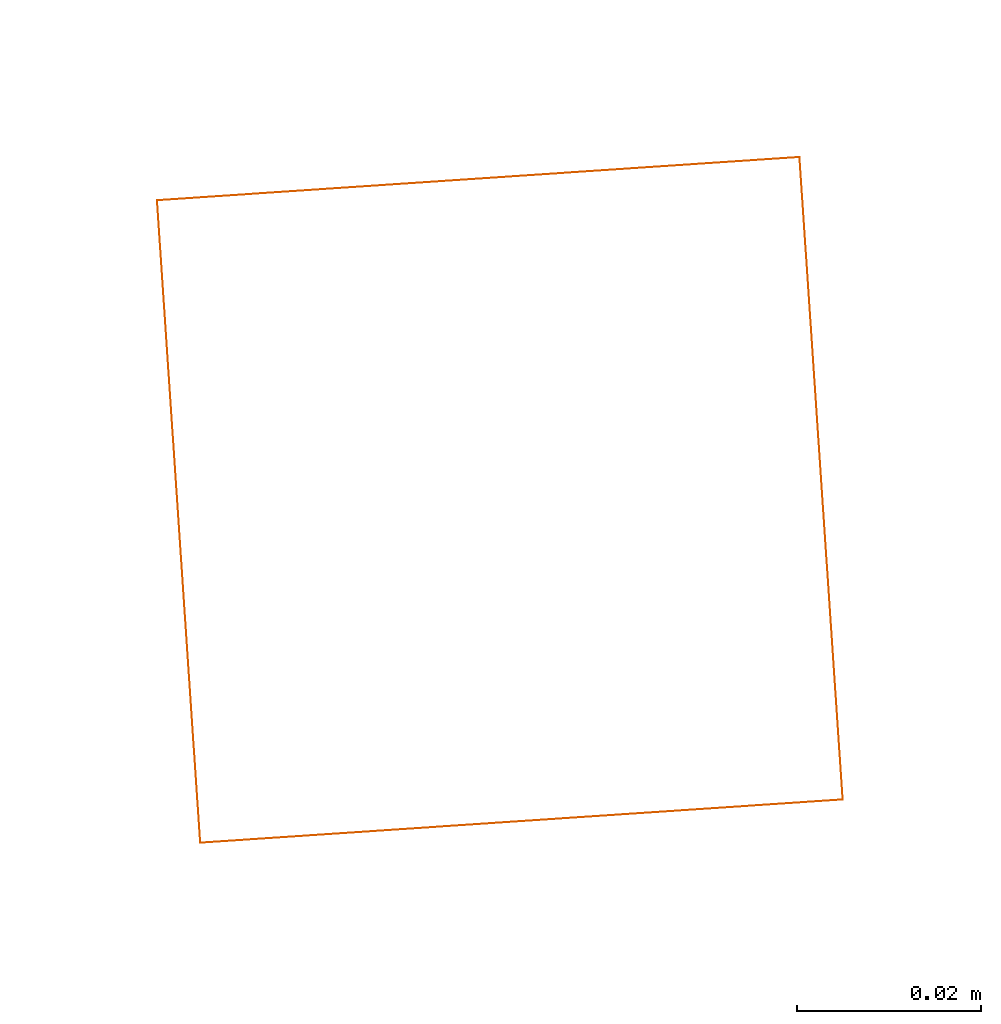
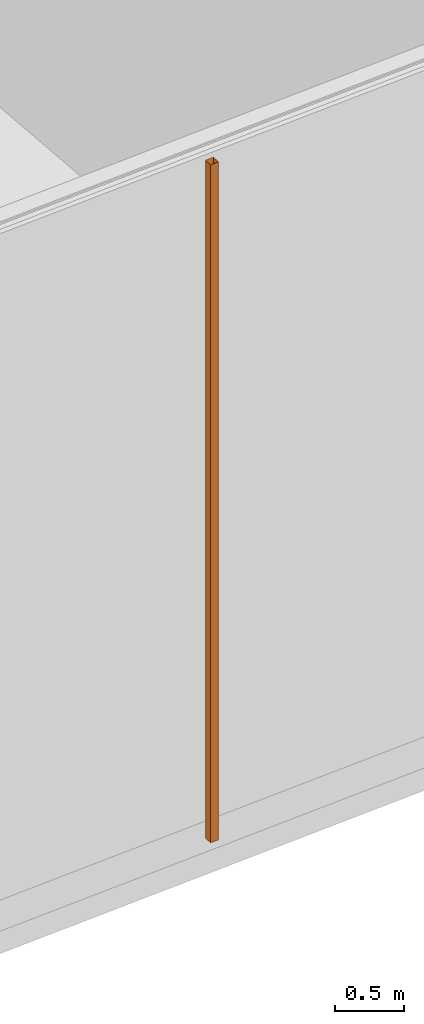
# One storey, part 59 of 112: 1 proxy.
"""IFC2X3 building model written with IfcOpenShell, lengths in millimetres."""

import ifcopenshell
import ifcopenshell.guid

model = None  # the IFC model being written
_history = None  # IfcOwnerHistory: only IFC2X3 demands one
_inside = {}  # id of a spatial element -> (the spatial element, [elements in it])
_under = {}  # id of a project, library or spatial element -> (it, [spatial elements below it])
_declared = {}  # id of a project -> (the project, [libraries it declares])
_typed = {}  # id of a type object -> (the type object, [elements of that type])
_made_of = {}  # id of a material, layer set ... -> (it, [elements and type objects made of it])


def new_model(schema):
    """Start an empty IFC model of exactly this schema.

    Asked for "IFC4X3", IfcOpenShell would pick the latest addendum, in which some entities
    have other attributes; the version numbers below select the first issue.
    IFC2X3 requires an IfcOwnerHistory on every rooted entity: one is made here for all.
    """
    global model, _history
    if schema == "IFC4X3":
        model = ifcopenshell.file(schema_version=(4, 3, 0, 0))
    else:
        model = ifcopenshell.file(schema=schema)
    _inside.clear()
    _under.clear()
    _declared.clear()
    _typed.clear()
    _made_of.clear()
    _history = None
    if model.schema == "IFC2X3":
        org = make("IfcOrganization", Name="unknown")
        user = make(
            "IfcPersonAndOrganization",
            ThePerson=make("IfcPerson", FamilyName="unknown"),
            TheOrganization=org,
        )
        app = make(
            "IfcApplication",
            ApplicationDeveloper=org,
            Version="unknown",
            ApplicationFullName="unknown",
            ApplicationIdentifier="unknown",
        )
        _history = make(
            "IfcOwnerHistory",
            OwningUser=user,
            OwningApplication=app,
            ChangeAction="ADDED",
            CreationDate=0,
        )
    return model


def make(cls, **values):
    """One entity of the class cls with the attributes given. An attribute that is None is left unset."""
    return model.create_entity(
        cls, **{name: value for name, value in values.items() if value is not None}
    )


def entity(cls, *values):
    """Any entity or typed value of the class cls, its attributes in the order of the schema. None: left unset."""
    e = model.create_entity(cls)
    for i, value in enumerate(values):
        if value is not None:
            e[i] = value
    return e


def rooted(cls, **values):
    """An entity with a GlobalId (a new one), such as an element, a storey or a relation."""
    return make(cls, GlobalId=ifcopenshell.guid.new(), OwnerHistory=_history, **values)


def si_unit(unit_type, name, prefix=None):
    """IfcSIUnit, for example si_unit("LENGTHUNIT", "METRE", prefix="MILLI")."""
    return make("IfcSIUnit", UnitType=unit_type, Prefix=prefix, Name=name)


def converted_unit(unit_type, name, factor, base, dimensions=None, offset=None):
    """IfcConversionBasedUnit, such as the inch: factor (a typed value) times the base unit."""
    return make(
        "IfcConversionBasedUnit"
        if offset is None
        else "IfcConversionBasedUnitWithOffset",
        ConversionOffset=offset,
        Dimensions=None
        if dimensions is None
        else entity("IfcDimensionalExponents", *dimensions),
        UnitType=unit_type,
        Name=name,
        ConversionFactor=make(
            "IfcMeasureWithUnit", ValueComponent=factor, UnitComponent=base
        ),
    )


def derived_unit(unit_type, elements):
    """IfcDerivedUnit: a product of units, each with its exponent."""
    return make(
        "IfcDerivedUnit",
        Elements=[
            make("IfcDerivedUnitElement", Unit=unit, Exponent=power)
            for unit, power in elements
        ],
        UnitType=unit_type,
    )


def money_unit(currency):
    """IfcMonetaryUnit."""
    return make("IfcMonetaryUnit", Currency=currency)


def assignment(units):
    """IfcUnitAssignment: the units of a project."""
    return None if units is None else make("IfcUnitAssignment", Units=units)


def point(xyz):
    """IfcCartesianPoint."""
    return None if xyz is None else make("IfcCartesianPoint", Coordinates=xyz)


def direction(xyz):
    """IfcDirection."""
    return None if xyz is None else make("IfcDirection", DirectionRatios=xyz)


def frame(location, z_axis=None, x_axis=None):
    """IfcAxis2Placement3D, a coordinate frame: its origin and axes. An axis left out is left unset."""
    return make(
        "IfcAxis2Placement3D",
        Location=point(location),
        Axis=direction(z_axis),
        RefDirection=direction(x_axis),
    )


def origin_with_axes():
    """The frame at (0, 0, 0) with the z axis (0, 0, 1) and the x axis (1, 0, 0) written out."""
    return frame((0.0, 0.0, 0.0), z_axis=(0.0, 0.0, 1.0), x_axis=(1.0, 0.0, 0.0))


def place(relative_to, where):
    """IfcLocalPlacement: puts the frame where relative to a parent placement (None: the world)."""
    return make(
        "IfcLocalPlacement", PlacementRelTo=relative_to, RelativePlacement=where
    )


def context(
    kind, dimensions, precision=None, world=None, true_north=None, identifier=None
):
    """IfcGeometricRepresentationContext, for example the 3D "Model" context."""
    return make(
        "IfcGeometricRepresentationContext",
        ContextIdentifier=identifier,
        ContextType=kind,
        CoordinateSpaceDimension=dimensions,
        Precision=precision,
        WorldCoordinateSystem=world,
        TrueNorth=true_north,
    )


def subcontext(parent, identifier, kind, view, scale=None):
    """IfcGeometricRepresentationSubContext, for example "Body" below "Model"."""
    return make(
        "IfcGeometricRepresentationSubContext",
        ContextIdentifier=identifier,
        ContextType=kind,
        ParentContext=parent,
        TargetScale=scale,
        TargetView=view,
    )


def project(units=None, contexts=None):
    """IfcProject with its units and contexts."""
    return rooted(
        "IfcProject",
        Name="project",
        RepresentationContexts=contexts,
        UnitsInContext=assignment(units),
    )


def spatial(cls, under=None, at=None, **own):
    """A site, building, storey or space (cls), placed at a placement, below another one or the project."""
    s = rooted(cls, ObjectPlacement=at, **own)
    if under is not None:
        _under.setdefault(under.id(), (under, []))[1].append(s)
    return s


def faces_of(points, faces, orient=None, outer=None):
    """IfcFace entities. A face is a list of loops; a loop is a list of indices into points, from 0.

    orient and outer hold one flag for each loop. By default every Orientation is true, the
    first loop of a face is its IfcFaceOuterBound and the others are IfcFaceBound.
    """
    made = []
    for i, loops in enumerate(faces):
        bounds = []
        for j, loop in enumerate(loops):
            is_outer = j == 0 if outer is None else outer[i][j]
            bounds.append(
                make(
                    "IfcFaceOuterBound" if is_outer else "IfcFaceBound",
                    Bound=make("IfcPolyLoop", Polygon=[points[k] for k in loop]),
                    Orientation=True if orient is None else orient[i][j],
                )
            )
        made.append(make("IfcFace", Bounds=bounds))
    return made


def open_shell(faces, orient=None, outer=None):
    """The faces of one IfcOpenShell. surface_model builds it on its shared points."""
    return ("IfcOpenShell", faces, orient, outer)


def surface_model(cls, points, shells):
    """IfcFaceBasedSurfaceModel or IfcShellBasedSurfaceModel (cls): surfaces that need not close."""
    shared = [point(p) for p in points]
    made = [make(c, CfsFaces=faces_of(shared, fs, o, b)) for c, fs, o, b in shells]
    if cls == "IfcFaceBasedSurfaceModel":
        return make(cls, FbsmFaces=made)
    return make(cls, SbsmBoundary=made)


def shape(context_of_items, identifier, shape_type, items):
    """IfcShapeRepresentation: the items that make up one representation, for example the "Body"."""
    return make(
        "IfcShapeRepresentation",
        ContextOfItems=context_of_items,
        RepresentationIdentifier=identifier,
        RepresentationType=shape_type,
        Items=items,
    )


def source(mapping_origin, context_of_items, identifier, shape_type, items):
    """IfcRepresentationMap: a shape defined once, which mapped items show again and again."""
    return make(
        "IfcRepresentationMap",
        MappingOrigin=mapping_origin,
        MappedRepresentation=shape(context_of_items, identifier, shape_type, items),
    )


def transform(
    local_origin,
    x_axis=None,
    y_axis=None,
    z_axis=None,
    scale=None,
    scale2=None,
    scale3=None,
    uniform=True,
):
    """IfcCartesianTransformationOperator3D, or its non-uniform kind. x_axis, y_axis, z_axis: its Axis1, 2, 3."""
    if uniform:
        return make(
            "IfcCartesianTransformationOperator3D",
            Axis1=direction(x_axis),
            Axis2=direction(y_axis),
            LocalOrigin=point(local_origin),
            Scale=scale,
            Axis3=direction(z_axis),
        )
    return make(
        "IfcCartesianTransformationOperator3DnonUniform",
        Axis1=direction(x_axis),
        Axis2=direction(y_axis),
        LocalOrigin=point(local_origin),
        Scale=scale,
        Axis3=direction(z_axis),
        Scale2=scale2,
        Scale3=scale3,
    )


def mapped(mapping_source, mapping_target):
    """IfcMappedItem: shows the shape of a source again, moved by a transform."""
    return make(
        "IfcMappedItem", MappingSource=mapping_source, MappingTarget=mapping_target
    )


def made_of(thing, what):
    """Note that an element or type object is made of a material, layer set ...; save() writes the relation."""
    if what is not None:
        _made_of.setdefault(what.id(), (what, []))[1].append(thing)
    return thing


def type_object(cls, material=None, **own):
    """A type object (cls), such as IfcWallType, which elements share."""
    return made_of(rooted(cls, **own), material)


def element(
    cls,
    number,
    at=None,
    inside=None,
    cuts=None,
    type_object=None,
    material=None,
    context=None,
    identifier="Body",
    shape_type=None,
    held_by="IfcProductDefinitionShape",
    body=None,
    shapes=None,
    **own,
):
    """One element of the class cls, such as IfcWall. Its Tag is "e" and its number.

    at: its placement. inside: the storey or other place that contains it. cuts: it is an
    opening in that element (IfcRelVoidsElement). A single representation is given by context,
    identifier, shape_type and body (its items); several are given by shapes. held_by: the class
    of the entity that holds the representations. save() writes the other relations.
    """
    e = rooted(cls, Tag="e%d" % number, ObjectPlacement=at, **own)
    if body is not None:
        shapes = [shape(context, identifier, shape_type, body)]
    if shapes is not None:
        e.Representation = make(held_by, Representations=shapes)
    if inside is not None:
        _inside.setdefault(inside.id(), (inside, []))[1].append(e)
    if cuts is not None:
        rooted(
            "IfcRelVoidsElement", RelatingBuildingElement=cuts, RelatedOpeningElement=e
        )
    if type_object is not None:
        _typed.setdefault(type_object.id(), (type_object, []))[1].append(e)
    return made_of(e, material)


def aggregate(whole, parts):
    """IfcRelAggregates: a whole, such as a stair, and the parts it consists of."""
    return rooted("IfcRelAggregates", RelatingObject=whole, RelatedObjects=parts)


def save(model, path):
    """Write the relations noted so far, then the file.

    IfcRelAggregates (storeys below a building ...), IfcRelContainedInSpatialStructure (elements
    in a storey), IfcRelDefinesByType, IfcRelAssociatesMaterial and IfcRelDeclares: one each for
    every whole, place, type object, material and project.
    """
    for whole, parts in _under.values():
        aggregate(whole, parts)
    for where, things in _inside.values():
        rooted(
            "IfcRelContainedInSpatialStructure",
            RelatedElements=things,
            RelatingStructure=where,
        )
    for kind, things in _typed.values():
        rooted("IfcRelDefinesByType", RelatedObjects=things, RelatingType=kind)
    for what, things in _made_of.values():
        rooted("IfcRelAssociatesMaterial", RelatedObjects=things, RelatingMaterial=what)
    for by, libraries in _declared.values():
        rooted("IfcRelDeclares", RelatingContext=by, RelatedDefinitions=libraries)
    model.write(path)


model = new_model("IFC2X3")

# Units and contexts
model_context = context("Model", 3, precision=0.01, world=origin_with_axes(), true_north=direction((0.0, 1.0)))
body_context = subcontext(model_context, "Body", "Model", "MODEL_VIEW")
ifc_project = project(units=[si_unit("LENGTHUNIT", "METRE", prefix="MILLI"), si_unit("AREAUNIT", "SQUARE_METRE"), si_unit("VOLUMEUNIT", "CUBIC_METRE"), converted_unit("PLANEANGLEUNIT", "DEGREE", entity("IfcPlaneAngleMeasure", 0.0174532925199), si_unit("PLANEANGLEUNIT", "RADIAN"), dimensions=[0, 0, 0, 0, 0, 0, 0]), si_unit("SOLIDANGLEUNIT", "STERADIAN"), money_unit("EUR"), converted_unit("TIMEUNIT", "Year", entity("IfcTimeMeasure", 31556926.0), si_unit("TIMEUNIT", "SECOND"), dimensions=[0, 0, 1, 0, 0, 0, 0]), si_unit("MASSUNIT", "GRAM", prefix="KILO"), si_unit("THERMODYNAMICTEMPERATUREUNIT", "DEGREE_CELSIUS"), si_unit("LUMINOUSINTENSITYUNIT", "LUMEN"), si_unit("ENERGYUNIT", "JOULE", prefix="MEGA"), derived_unit("THERMALCONDUCTANCEUNIT", [(si_unit("POWERUNIT", "WATT"), 1), (si_unit("LENGTHUNIT", "METRE"), -1), (si_unit("THERMODYNAMICTEMPERATUREUNIT", "KELVIN"), -1)]), derived_unit("SPECIFICHEATCAPACITYUNIT", [(si_unit("ENERGYUNIT", "JOULE"), 1), (si_unit("MASSUNIT", "GRAM", prefix="KILO"), -1), (si_unit("THERMODYNAMICTEMPERATUREUNIT", "KELVIN"), -1)]), derived_unit("MASSDENSITYUNIT", [(si_unit("MASSUNIT", "GRAM", prefix="KILO"), 1), (si_unit("VOLUMEUNIT", "CUBIC_METRE"), -1)])], contexts=[model_context])

# Site, building, storey
site_placement = place(None, origin_with_axes())
site = spatial("IfcSite", under=ifc_project, at=site_placement, Name="Politse- ja Piirivalveameti ning Päästeameti ühishoone", CompositionType="ELEMENT")
building_placement = place(site_placement, origin_with_axes())
building = spatial("IfcBuilding", under=site, at=building_placement, Name="Politse- ja Piirivalveameti ning Päästeameti ühishoone", CompositionType="ELEMENT")
storey_placement = place(building_placement, origin_with_axes())
storey = spatial("IfcBuildingStorey", under=building, at=storey_placement, Name="Esimene korrus", CompositionType="ELEMENT", Elevation=0.0)

# Proxy
building_element_proxy_type = type_object("IfcBuildingElementProxyType", Name="Downspout 23", PredefinedType="NOTDEFINED")
shared_shape = source(origin_with_axes(), body_context, "Body", "SurfaceModel", [
    surface_model("IfcShellBasedSurfaceModel", [(-35.0, -50.0, 6000.0), (-35.0, 20.0, 6000.0), (-35.0, 20.0, 0.0), (-35.0, -50.0, 0.0), (35.0, 20.0, 6000.0), (35.0, 20.0, 0.0), (35.0, -50.0, 6000.0), (35.0, -50.0, 0.0)], [open_shell([[[0, 1, 2, 3]], [[1, 4, 5, 2]], [[6, 0, 3, 7]], [[4, 6, 7, 5]]])]),
])
proxy_placement = place(storey_placement, frame((27154.1855122, -47223.2378598, 177.153502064), z_axis=(0.0, 0.0, 1.0), x_axis=(0.0671567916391, -0.997742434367, 0.0)))
element("IfcBuildingElementProxy", 1, at=proxy_placement, inside=storey, type_object=building_element_proxy_type, Name="VIHMAVEETORU 3", context=body_context, shape_type="MappedRepresentation", body=[
    mapped(shared_shape, transform((0.0, 0.0, 0.0))),
])

save(model, "model.ifc")
